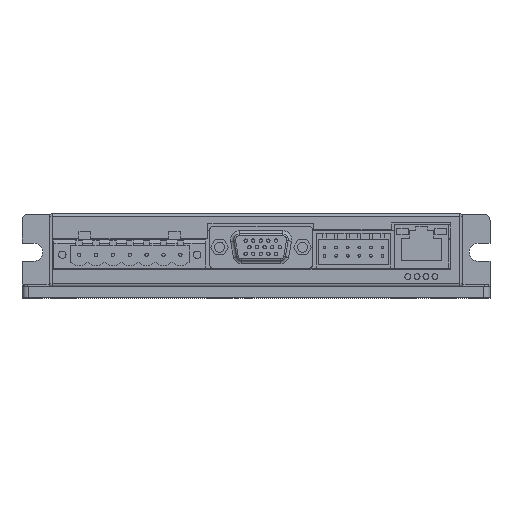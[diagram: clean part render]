
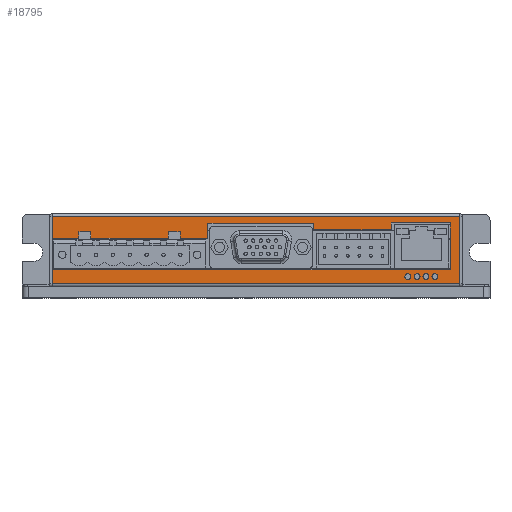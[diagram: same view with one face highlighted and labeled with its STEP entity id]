
A CAD part, top view. The second image highlights one B-rep face of the part: STEP entity #18795.
In plain terms, the highlighted planar face has unit normal (0, 0, 1).
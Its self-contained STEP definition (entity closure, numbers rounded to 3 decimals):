
#16090=DIRECTION('',(-1.,0.,0.));
#16091=VECTOR('',#16090,122.7);
#16092=CARTESIAN_POINT('',(61.35,-0.9,0.));
#16093=LINE('',#16092,#16091);
#16098=DIRECTION('',(-1.,0.,0.));
#16099=VECTOR('',#16098,23.29);
#16100=CARTESIAN_POINT('',(-26.444,-7.43,0.));
#16101=LINE('',#16100,#16099);
#16102=DIRECTION('',(-1.,0.,0.));
#16103=VECTOR('',#16102,8.016);
#16104=CARTESIAN_POINT('',(-53.334,-7.43,0.));
#16105=LINE('',#16104,#16103);
#16106=DIRECTION('',(0.,1.,0.));
#16107=VECTOR('',#16106,6.53);
#16108=CARTESIAN_POINT('',(-61.35,-7.43,0.));
#16109=LINE('',#16108,#16107);
#16110=DIRECTION('',(0.,-1.,0.));
#16111=VECTOR('',#16110,20.2);
#16112=CARTESIAN_POINT('',(61.35,-0.9,0.));
#16113=LINE('',#16112,#16111);
#16114=DIRECTION('',(0.,1.,0.));
#16115=VECTOR('',#16114,4.2);
#16116=CARTESIAN_POINT('',(-61.35,-21.1,0.));
#16117=LINE('',#16116,#16115);
#16118=DIRECTION('',(0.,1.,0.));
#16119=VECTOR('',#16118,14.1);
#16120=CARTESIAN_POINT('',(58.55,-16.9,0.));
#16121=LINE('',#16120,#16119);
#16122=DIRECTION('',(-1.,0.,0.));
#16123=VECTOR('',#16122,17.821);
#16124=CARTESIAN_POINT('',(58.55,-2.8,0.));
#16125=LINE('',#16124,#16123);
#16126=DIRECTION('',(0.,-1.,0.));
#16127=VECTOR('',#16126,2.1);
#16128=CARTESIAN_POINT('',(40.729,-2.8,0.));
#16129=LINE('',#16128,#16127);
#16130=DIRECTION('',(-1.,0.,0.));
#16131=VECTOR('',#16130,23.348);
#16132=CARTESIAN_POINT('',(40.729,-4.9,0.));
#16133=LINE('',#16132,#16131);
#16134=DIRECTION('',(0.,1.,0.));
#16135=VECTOR('',#16134,2.05);
#16136=CARTESIAN_POINT('',(17.382,-4.9,0.));
#16137=LINE('',#16136,#16135);
#16138=DIRECTION('',(-1.,0.,0.));
#16139=VECTOR('',#16138,31.852);
#16140=CARTESIAN_POINT('',(17.382,-2.85,0.));
#16141=LINE('',#16140,#16139);
#16142=DIRECTION('',(0.,-1.,0.));
#16143=VECTOR('',#16142,4.58);
#16144=CARTESIAN_POINT('',(-14.47,-2.85,0.));
#16145=LINE('',#16144,#16143);
#16146=DIRECTION('',(-1.,0.,0.));
#16147=VECTOR('',#16146,8.374);
#16148=CARTESIAN_POINT('',(-14.47,-7.43,0.));
#16149=LINE('',#16148,#16147);
#16150=CARTESIAN_POINT('',(51.214,-19.,0.));
#16151=DIRECTION('',(0.,0.,1.));
#16152=DIRECTION('',(-1.,0.,0.));
#16153=AXIS2_PLACEMENT_3D('',#16150,#16151,#16152);
#16155=CARTESIAN_POINT('',(51.214,-19.,0.));
#16156=DIRECTION('',(0.,0.,1.));
#16157=DIRECTION('',(1.,0.,0.));
#16158=AXIS2_PLACEMENT_3D('',#16155,#16156,#16157);
#16160=CARTESIAN_POINT('',(48.514,-19.,0.));
#16161=DIRECTION('',(0.,0.,1.));
#16162=DIRECTION('',(-1.,0.,0.));
#16163=AXIS2_PLACEMENT_3D('',#16160,#16161,#16162);
#16165=CARTESIAN_POINT('',(48.514,-19.,0.));
#16166=DIRECTION('',(0.,0.,1.));
#16167=DIRECTION('',(1.,0.,0.));
#16168=AXIS2_PLACEMENT_3D('',#16165,#16166,#16167);
#16170=CARTESIAN_POINT('',(45.764,-19.,0.));
#16171=DIRECTION('',(0.,0.,1.));
#16172=DIRECTION('',(-1.,0.,0.));
#16173=AXIS2_PLACEMENT_3D('',#16170,#16171,#16172);
#16175=CARTESIAN_POINT('',(45.764,-19.,0.));
#16176=DIRECTION('',(0.,0.,1.));
#16177=DIRECTION('',(1.,0.,0.));
#16178=AXIS2_PLACEMENT_3D('',#16175,#16176,#16177);
#16180=CARTESIAN_POINT('',(53.914,-19.,0.));
#16181=DIRECTION('',(0.,0.,1.));
#16182=DIRECTION('',(-1.,0.,0.));
#16183=AXIS2_PLACEMENT_3D('',#16180,#16181,#16182);
#16185=CARTESIAN_POINT('',(53.914,-19.,0.));
#16186=DIRECTION('',(0.,0.,1.));
#16187=DIRECTION('',(1.,0.,0.));
#16188=AXIS2_PLACEMENT_3D('',#16185,#16186,#16187);
#16190=DIRECTION('',(0.,-1.,0.));
#16191=VECTOR('',#16190,2.);
#16192=CARTESIAN_POINT('',(-22.844,-5.43,0.));
#16193=LINE('',#16192,#16191);
#16262=DIRECTION('',(-1.,0.,0.));
#16263=VECTOR('',#16262,119.9);
#16264=CARTESIAN_POINT('',(58.55,-16.9,0.));
#16265=LINE('',#16264,#16263);
#16296=DIRECTION('',(1.,0.,0.));
#16297=VECTOR('',#16296,122.7);
#16298=CARTESIAN_POINT('',(-61.35,-21.1,0.));
#16299=LINE('',#16298,#16297);
#17104=DIRECTION('',(0.,1.,0.));
#17105=VECTOR('',#17104,2.);
#17106=CARTESIAN_POINT('',(-53.334,-7.43,0.));
#17107=LINE('',#17106,#17105);
#17112=DIRECTION('',(1.,0.,0.));
#17113=VECTOR('',#17112,3.6);
#17114=CARTESIAN_POINT('',(-53.334,-5.43,0.));
#17115=LINE('',#17114,#17113);
#17120=DIRECTION('',(0.,-1.,0.));
#17121=VECTOR('',#17120,2.);
#17122=CARTESIAN_POINT('',(-49.734,-5.43,0.));
#17123=LINE('',#17122,#17121);
#17136=DIRECTION('',(0.,1.,0.));
#17137=VECTOR('',#17136,2.);
#17138=CARTESIAN_POINT('',(-26.444,-7.43,0.));
#17139=LINE('',#17138,#17137);
#17144=DIRECTION('',(1.,0.,0.));
#17145=VECTOR('',#17144,3.6);
#17146=CARTESIAN_POINT('',(-26.444,-5.43,0.));
#17147=LINE('',#17146,#17145);
#18106=CARTESIAN_POINT('',(61.35,-0.9,0.));
#18107=CARTESIAN_POINT('',(-61.35,-0.9,0.));
#18108=VERTEX_POINT('',#18106);
#18109=VERTEX_POINT('',#18107);
#18110=CARTESIAN_POINT('',(-22.844,-5.43,0.));
#18111=CARTESIAN_POINT('',(-22.844,-7.43,0.));
#18112=VERTEX_POINT('',#18110);
#18113=VERTEX_POINT('',#18111);
#18114=CARTESIAN_POINT('',(-26.444,-5.43,0.));
#18115=VERTEX_POINT('',#18114);
#18116=CARTESIAN_POINT('',(-26.444,-7.43,0.));
#18117=VERTEX_POINT('',#18116);
#18118=CARTESIAN_POINT('',(-49.734,-7.43,0.));
#18119=VERTEX_POINT('',#18118);
#18120=CARTESIAN_POINT('',(-49.734,-5.43,0.));
#18121=VERTEX_POINT('',#18120);
#18122=CARTESIAN_POINT('',(-53.334,-5.43,0.));
#18123=VERTEX_POINT('',#18122);
#18124=CARTESIAN_POINT('',(-53.334,-7.43,0.));
#18125=VERTEX_POINT('',#18124);
#18126=CARTESIAN_POINT('',(-61.35,-7.43,0.));
#18127=VERTEX_POINT('',#18126);
#18128=CARTESIAN_POINT('',(61.35,-21.1,0.));
#18129=VERTEX_POINT('',#18128);
#18130=CARTESIAN_POINT('',(-61.35,-21.1,0.));
#18131=VERTEX_POINT('',#18130);
#18132=CARTESIAN_POINT('',(-61.35,-16.9,0.));
#18133=VERTEX_POINT('',#18132);
#18134=CARTESIAN_POINT('',(58.55,-16.9,0.));
#18135=VERTEX_POINT('',#18134);
#18136=CARTESIAN_POINT('',(58.55,-2.8,0.));
#18137=VERTEX_POINT('',#18136);
#18138=CARTESIAN_POINT('',(40.729,-2.8,0.));
#18139=VERTEX_POINT('',#18138);
#18140=CARTESIAN_POINT('',(40.729,-4.9,0.));
#18141=VERTEX_POINT('',#18140);
#18142=CARTESIAN_POINT('',(17.382,-4.9,0.));
#18143=VERTEX_POINT('',#18142);
#18144=CARTESIAN_POINT('',(17.382,-2.85,0.));
#18145=VERTEX_POINT('',#18144);
#18146=CARTESIAN_POINT('',(-14.47,-2.85,0.));
#18147=VERTEX_POINT('',#18146);
#18148=CARTESIAN_POINT('',(-14.47,-7.43,0.));
#18149=VERTEX_POINT('',#18148);
#18150=CARTESIAN_POINT('',(50.314,-19.,0.));
#18151=CARTESIAN_POINT('',(52.114,-19.,0.));
#18152=VERTEX_POINT('',#18150);
#18153=VERTEX_POINT('',#18151);
#18154=CARTESIAN_POINT('',(47.614,-19.,0.));
#18155=CARTESIAN_POINT('',(49.414,-19.,0.));
#18156=VERTEX_POINT('',#18154);
#18157=VERTEX_POINT('',#18155);
#18158=CARTESIAN_POINT('',(44.864,-19.,0.));
#18159=CARTESIAN_POINT('',(46.664,-19.,0.));
#18160=VERTEX_POINT('',#18158);
#18161=VERTEX_POINT('',#18159);
#18162=CARTESIAN_POINT('',(53.014,-19.,0.));
#18163=CARTESIAN_POINT('',(54.814,-19.,0.));
#18164=VERTEX_POINT('',#18162);
#18165=VERTEX_POINT('',#18163);
#18721=CARTESIAN_POINT('',(-61.35,0.,0.));
#18722=DIRECTION('',(0.,0.,1.));
#18723=DIRECTION('',(-1.,0.,0.));
#18724=AXIS2_PLACEMENT_3D('',#18721,#18722,#18723);
#18725=PLANE('',#18724);
#18727=ORIENTED_EDGE('',*,*,#18726,.F.);
#18729=ORIENTED_EDGE('',*,*,#18728,.F.);
#18731=ORIENTED_EDGE('',*,*,#18730,.F.);
#18733=ORIENTED_EDGE('',*,*,#18732,.T.);
#18735=ORIENTED_EDGE('',*,*,#18734,.F.);
#18737=ORIENTED_EDGE('',*,*,#18736,.F.);
#18739=ORIENTED_EDGE('',*,*,#18738,.F.);
#18741=ORIENTED_EDGE('',*,*,#18740,.T.);
#18743=ORIENTED_EDGE('',*,*,#18742,.T.);
#18744=ORIENTED_EDGE('',*,*,#18711,.F.);
#18746=ORIENTED_EDGE('',*,*,#18745,.T.);
#18748=ORIENTED_EDGE('',*,*,#18747,.F.);
#18750=ORIENTED_EDGE('',*,*,#18749,.T.);
#18752=ORIENTED_EDGE('',*,*,#18751,.F.);
#18754=ORIENTED_EDGE('',*,*,#18753,.T.);
#18756=ORIENTED_EDGE('',*,*,#18755,.T.);
#18758=ORIENTED_EDGE('',*,*,#18757,.T.);
#18760=ORIENTED_EDGE('',*,*,#18759,.T.);
#18762=ORIENTED_EDGE('',*,*,#18761,.T.);
#18764=ORIENTED_EDGE('',*,*,#18763,.T.);
#18766=ORIENTED_EDGE('',*,*,#18765,.T.);
#18768=ORIENTED_EDGE('',*,*,#18767,.T.);
#18769=EDGE_LOOP('',(#18727,#18729,#18731,#18733,#18735,#18737,#18739,#18741,
#18743,#18744,#18746,#18748,#18750,#18752,#18754,#18756,#18758,#18760,#18762,
#18764,#18766,#18768));
#18770=FACE_OUTER_BOUND('',#18769,.F.);
#18772=ORIENTED_EDGE('',*,*,#18771,.T.);
#18774=ORIENTED_EDGE('',*,*,#18773,.T.);
#18775=EDGE_LOOP('',(#18772,#18774));
#18776=FACE_BOUND('',#18775,.F.);
#18778=ORIENTED_EDGE('',*,*,#18777,.T.);
#18780=ORIENTED_EDGE('',*,*,#18779,.T.);
#18781=EDGE_LOOP('',(#18778,#18780));
#18782=FACE_BOUND('',#18781,.F.);
#18784=ORIENTED_EDGE('',*,*,#18783,.T.);
#18786=ORIENTED_EDGE('',*,*,#18785,.T.);
#18787=EDGE_LOOP('',(#18784,#18786));
#18788=FACE_BOUND('',#18787,.F.);
#18790=ORIENTED_EDGE('',*,*,#18789,.T.);
#18792=ORIENTED_EDGE('',*,*,#18791,.T.);
#18793=EDGE_LOOP('',(#18790,#18792));
#18794=FACE_BOUND('',#18793,.F.);
#18795=ADVANCED_FACE('',(#18770,#18776,#18782,#18788,#18794),#18725,.T.);
#16154=CIRCLE('',#16153,0.9);
#16159=CIRCLE('',#16158,0.9);
#16164=CIRCLE('',#16163,0.9);
#16169=CIRCLE('',#16168,0.9);
#16174=CIRCLE('',#16173,0.9);
#16179=CIRCLE('',#16178,0.9);
#16184=CIRCLE('',#16183,0.9);
#16189=CIRCLE('',#16188,0.9);
#18711=EDGE_CURVE('',#18108,#18109,#16093,.T.);
#18726=EDGE_CURVE('',#18112,#18113,#16193,.T.);
#18728=EDGE_CURVE('',#18115,#18112,#17147,.T.);
#18730=EDGE_CURVE('',#18117,#18115,#17139,.T.);
#18732=EDGE_CURVE('',#18117,#18119,#16101,.T.);
#18734=EDGE_CURVE('',#18121,#18119,#17123,.T.);
#18736=EDGE_CURVE('',#18123,#18121,#17115,.T.);
#18738=EDGE_CURVE('',#18125,#18123,#17107,.T.);
#18740=EDGE_CURVE('',#18125,#18127,#16105,.T.);
#18742=EDGE_CURVE('',#18127,#18109,#16109,.T.);
#18745=EDGE_CURVE('',#18108,#18129,#16113,.T.);
#18747=EDGE_CURVE('',#18131,#18129,#16299,.T.);
#18749=EDGE_CURVE('',#18131,#18133,#16117,.T.);
#18751=EDGE_CURVE('',#18135,#18133,#16265,.T.);
#18753=EDGE_CURVE('',#18135,#18137,#16121,.T.);
#18755=EDGE_CURVE('',#18137,#18139,#16125,.T.);
#18757=EDGE_CURVE('',#18139,#18141,#16129,.T.);
#18759=EDGE_CURVE('',#18141,#18143,#16133,.T.);
#18761=EDGE_CURVE('',#18143,#18145,#16137,.T.);
#18763=EDGE_CURVE('',#18145,#18147,#16141,.T.);
#18765=EDGE_CURVE('',#18147,#18149,#16145,.T.);
#18767=EDGE_CURVE('',#18149,#18113,#16149,.T.);
#18771=EDGE_CURVE('',#18152,#18153,#16154,.T.);
#18773=EDGE_CURVE('',#18153,#18152,#16159,.T.);
#18777=EDGE_CURVE('',#18156,#18157,#16164,.T.);
#18779=EDGE_CURVE('',#18157,#18156,#16169,.T.);
#18783=EDGE_CURVE('',#18160,#18161,#16174,.T.);
#18785=EDGE_CURVE('',#18161,#18160,#16179,.T.);
#18789=EDGE_CURVE('',#18164,#18165,#16184,.T.);
#18791=EDGE_CURVE('',#18165,#18164,#16189,.T.);
